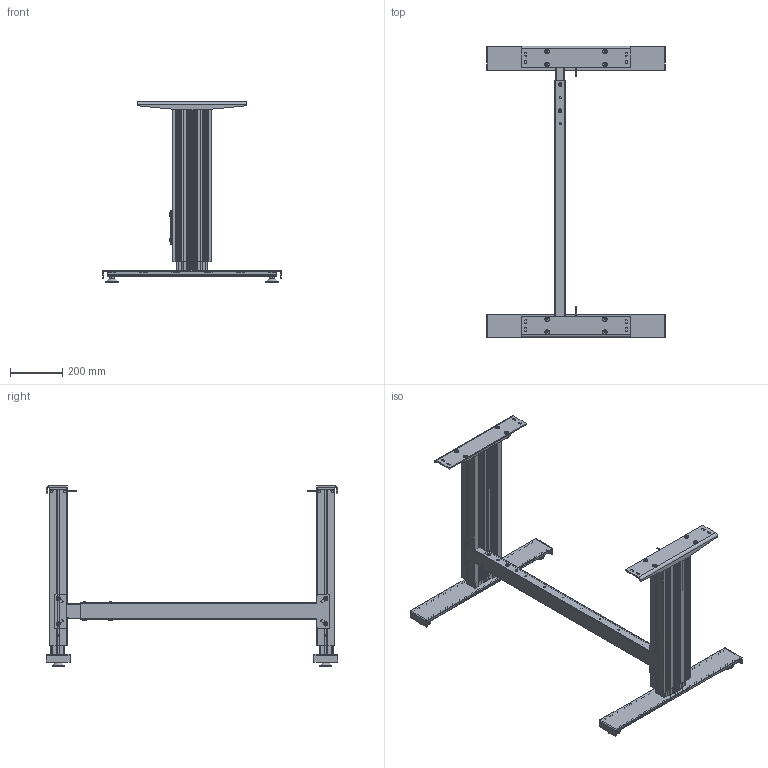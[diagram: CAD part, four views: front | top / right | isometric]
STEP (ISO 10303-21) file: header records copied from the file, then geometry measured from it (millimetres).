
FILE_DESCRIPTION(/* description */ ('Unknown'),/* implementation_level */ '2;1');
FILE_NAME(/* name */ '108.00314_01-Eingefahren',/* time_stamp */ '2022-02-10T09:32:05+01:00',/* author */ ('Unknown'),/* organization */ ('Unknown'),/* preprocessor_version */ 'ST-DEVELOPER v18.1',/* originating_system */ 'Solid Edge',/* authorisation */ 'Unknown');
FILE_SCHEMA (('AUTOMOTIVE_DESIGN {1 0 10303 214 3 1 1}'));
Products named in the file (35): 108.00314; 306.00814_oa_0; 126.00147; 119.00312; 119.00311; 142.00166; 142.00343; 113.00002; 124.00123; 109.00025_oa_1; 115.00008_oa_2; 306.00814_oa_3; 109.00025_oa_4; 115.00008_oa_5; 127.00635; 060339~2; 060340~3; Sechskantmutter M6 DIN 934; Scheibe Ø6,4 DIN 125; Halbrundkopfschraube mit Innensechskant M8x12 ISO 7380-1; Scheibe Ø8,4 DIN 125; Nutenstein M8_montiert; Halbrundkopfschraube mit Innensechskant und Bund M6x16 ISO 7380-2; 127.00545; 127.00548; 127.00566; 127.00567; 127.00548_461_469_Kehlnaht 1_oa_6; 113.00006; 113.00006-ohne Mutter; Mutter M10; 115.00165; 127.00223; 142.00279; 142.00068
Assembly tree (76 placements, depth 4):
  108.00314
    306.00814_oa_0
      126.00147
      119.00312
      119.00311
      142.00166  x4
      142.00343  x2
      113.00002
      124.00123
      109.00025_oa_1
        115.00008_oa_2
    306.00814_oa_3
      126.00147
      119.00312
      119.00311
      142.00166  x4
      142.00343  x2
      113.00002
      124.00123
      109.00025_oa_4
        115.00008_oa_5
    127.00635
      060339~2
      060340~3
      Sechskantmutter M6 DIN 934  x4
      Scheibe Ø6,4 DIN 125  x4
      Halbrundkopfschraube mit Innensechskant M8x12 ISO 7380-1  x4
      Scheibe Ø8,4 DIN 125  x4
      Nutenstein M8_montiert  x4
      Halbrundkopfschraube mit Innensechskant und Bund M6x16 ISO 7380-2  x4
    127.00545  x2
      127.00548
        127.00566
        127.00567
        127.00548_461_469_Kehlnaht 1_oa_6
      113.00006
        113.00006-ohne Mutter
        Mutter M10
    115.00165  x2
      127.00223
      142.00279
      142.00068
Bounding box: 680 x 1110 x 687 mm (x, y, z)
Volume: 7398710.1 mm3; surface area: 3856973.1 mm2
Topology: 102 solids, 102 shells, 6080 faces, 17067 edges, 11263 vertices
Faces by surface type: plane 3316, cylinder 2344, cone 234, torus 108, bspline 74, sphere 4
Full cylindrical faces by diameter (mm): 2.2 x2, 3.242 x4, 3.4 x2, 4 x6, 5 x10, 5.5 x8, 6 x8, 6.4 x4, 6.6 x2, 6.647 x12, 7 x16, 8 x18, 8.376 x10, 8.5 x28, 8.7 x8, 9 x8, 9.5 x4, 10 x4, 12 x4, 12.5 x2, 13.5 x2, 13.6 x4, 14 x4, 15 x4, 16.8 x4, 19 x4, 25 x14, 29 x4, 30 x4, 35 x4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
Entity records: 102406 total; most frequent: CARTESIAN_POINT 17486, ORIENTED_EDGE 15324, DIRECTION 15086, EDGE_CURVE 7662, VERTEX_POINT 5149, AXIS2_PLACEMENT_3D 5058, LINE 4970, VECTOR 4970
